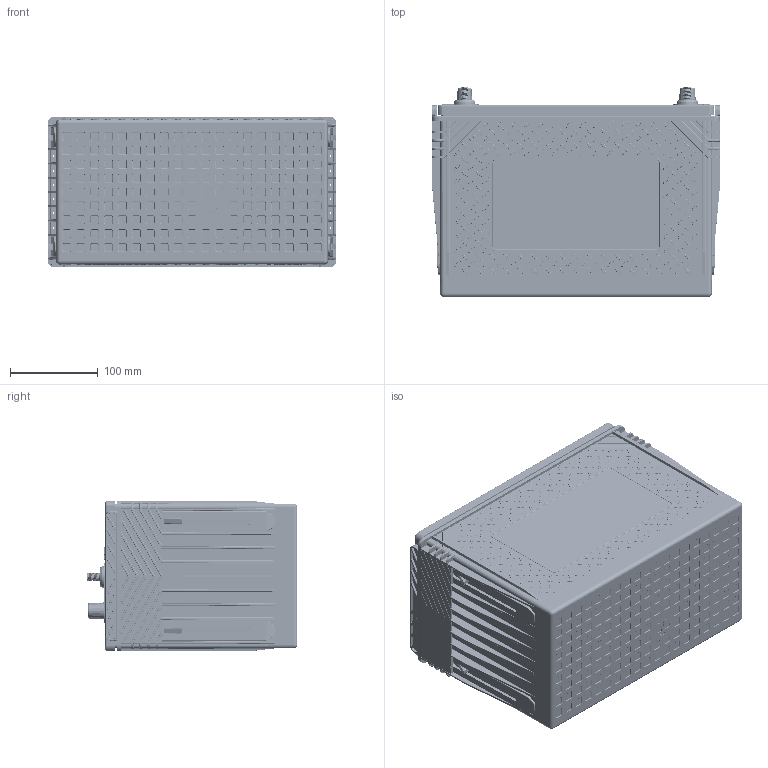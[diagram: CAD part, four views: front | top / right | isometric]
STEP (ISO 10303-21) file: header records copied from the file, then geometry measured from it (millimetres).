
FILE_DESCRIPTION (( 'STEP AP203' ), '1' );
FILE_NAME ('ODP-AGM31M.STEP', '2024-02-26T19:30:00', ( '' ), ( '' ), 'SwSTEP 2.0', 'SolidWorks 2022', '' );
FILE_SCHEMA (( 'CONFIG_CONTROL_DESIGN' ));
Products named in the file (1): ODP-AGM31M
Bounding box: 329.74 x 239.8 x 172.21 mm (x, y, z)
Volume: 1817797 mm3; surface area: 1181752.7 mm2
Topology: 20 solids, 20 shells, 32605 faces, 73799 edges, 41368 vertices
Faces by surface type: cylinder 12648, plane 6729, torus 5212, bspline 3196, cone 2620, sphere 2200
Full cylindrical faces by diameter (mm): 1.3 x18, 2.794 x12, 3.175 x1, 7.937 x1, 9.525 x8, 15.875 x5, 17.91 x6, 18.085 x6, 19.406 x12, 19.9 x6, 22.454 x12
Entity records: 945001 total; most frequent: CARTESIAN_POINT 239028, DIRECTION 155891, ORIENTED_EDGE 145742, EDGE_CURVE 72871, AXIS2_PLACEMENT_3D 61959, VERTEX_POINT 41262, EDGE_LOOP 33667, FACE_OUTER_BOUND 32737
